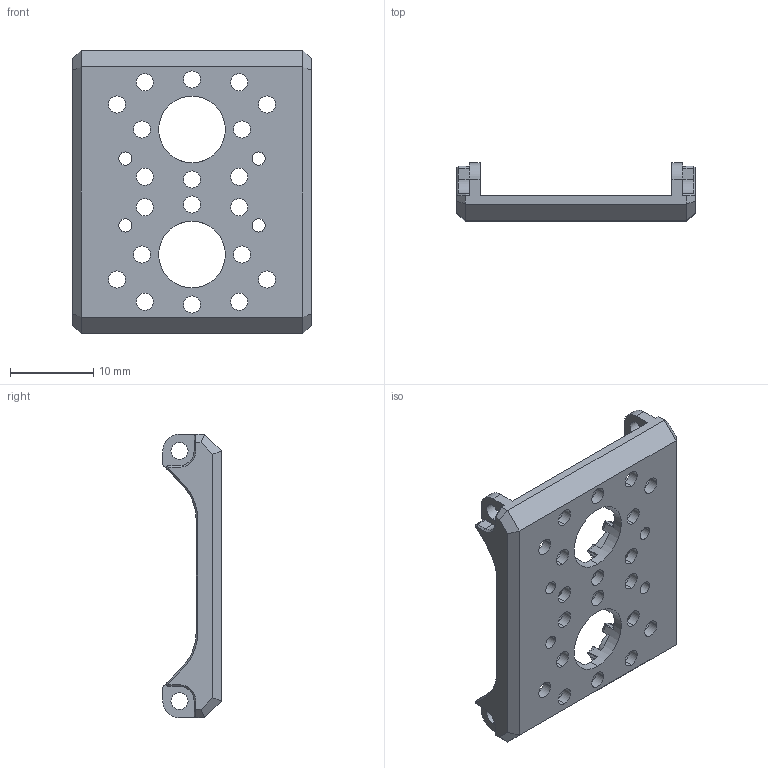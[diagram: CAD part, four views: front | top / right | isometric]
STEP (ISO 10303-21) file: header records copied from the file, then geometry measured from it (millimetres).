
FILE_DESCRIPTION (( 'STEP AP214' ), '1' );
FILE_NAME ('Finger3.STEP', '2026-09-16T05:52:59', ( '' ), ( '' ), 'SwSTEP 2.0', 'SolidWorks 2024', '' );
FILE_SCHEMA (( 'AUTOMOTIVE_DESIGN' ));
Length unit declared in the file: millimetre
Products named in the file (2): fpx330-s102_默认; Finger3
Assembly tree (1 placements, depth 2):
  Finger3
    fpx330-s102_默认
Bounding box: 28.6 x 7 x 34 mm (x, y, z)
Volume: 1747.9 mm3; surface area: 3187.4 mm2
Topology: 1 solids, 1 shells, 645 faces, 1786 edges, 1152 vertices
Faces by surface type: plane 489, cylinder 124, cone 16, torus 16
Entity records: 20611 total; most frequent: CARTESIAN_POINT 3779, ORIENTED_EDGE 3572, DIRECTION 3376, EDGE_CURVE 1786, VECTOR 1414, LINE 1414, VERTEX_POINT 1152, AXIS2_PLACEMENT_3D 981
